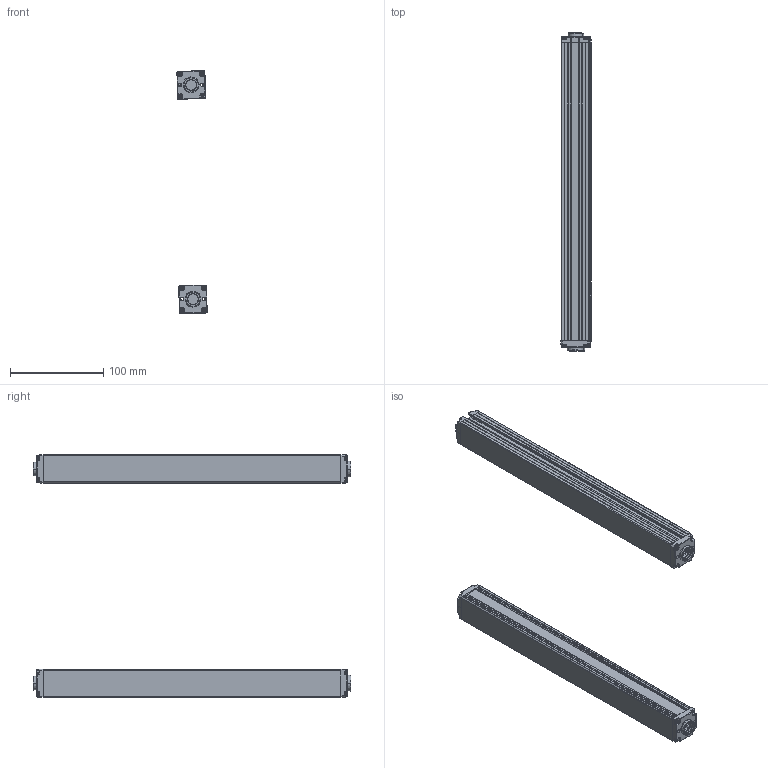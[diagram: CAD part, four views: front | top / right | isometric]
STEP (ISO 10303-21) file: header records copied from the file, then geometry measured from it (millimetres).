
FILE_DESCRIPTION (( 'STEP AP203' ), '1' );
FILE_NAME ('ZDA3010-320.STEP', '2022-08-30T03:41:55', ( 'Windows 蚚誧' ), ( 'Organization' ), 'SwSTEP 2.0', 'SolidWorks 2020', '' );
FILE_SCHEMA (( 'CONFIG_CONTROL_DESIGN' ));
Length unit declared in the file: millimetre
Products named in the file (5): ZDA3010-320; 錨璃1; 錨璃8; 錨璃8 - 萵掛 (2); 錨璃10
Assembly tree (8 placements, depth 2):
  ZDA3010-320
    錨璃1  x2
    錨璃8  x2
    錨璃8 - 萵掛 (2)  x2
    錨璃10  x2
Bounding box: 32.36 x 341.4 x 260.35 mm (x, y, z)
Volume: 211102.3 mm3; surface area: 225614.7 mm2
Topology: 8 solids, 8 shells, 1032 faces, 2690 edges, 1668 vertices
Faces by surface type: plane 464, cylinder 310, cone 120, bspline 58, torus 48, sphere 32
Entity records: 17901 total; most frequent: CARTESIAN_POINT 4731, ORIENTED_EDGE 2666, DIRECTION 2616, EDGE_CURVE 1333, AXIS2_PLACEMENT_3D 894, VERTEX_POINT 834, LINE 828, VECTOR 828
